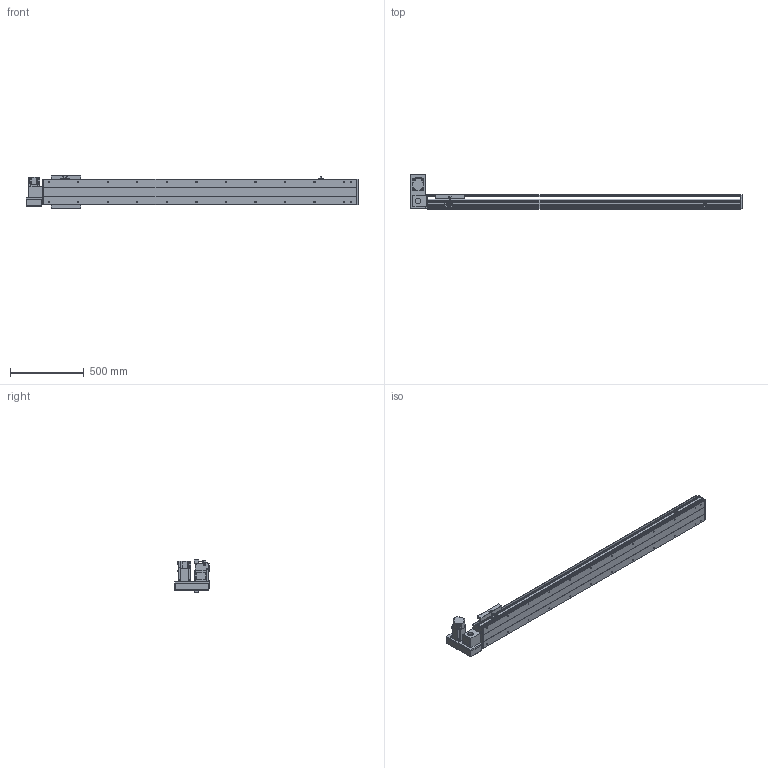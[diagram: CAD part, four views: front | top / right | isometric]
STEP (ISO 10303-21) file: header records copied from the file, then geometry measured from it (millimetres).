
FILE_DESCRIPTION(/* description */ ('STEP AP214'),/* implementation_level */ '2;1');
FILE_NAME(/* name */ 'PBS200-P40-S1750-LU-T75-C1-N(0)',/* time_stamp */ '2022-06-11T09:01:14+02:00',/* author */ ('License CC BY-ND 4.0'),/* organization */ ('CADENAS'),/* preprocessor_version */ 'ST-DEVELOPER v18.102',/* originating_system */ 'PARTsolutions',/* authorisation */ ' ');
FILE_SCHEMA (('AUTOMOTIVE_DESIGN {1 0 10303 214 3 1 1}'));
Length unit declared in the file: millimetre
Products named in the file (7): PBS200-P40-S1750-LU-T75-C1-N(0); PBS200_sensor; PBS200_plant; PBS200_sliser; T75-p1; PBS200T-LU_motors; PBS200-S1750()_body
Assembly tree (8 placements, depth 2):
  PBS200-P40-S1750-LU-T75-C1-N(0)
    PBS200_sensor  x3
    PBS200_plant
    PBS200_sliser
    T75-p1
    PBS200T-LU_motors
    PBS200-S1750()_body
Bounding box: 2250 x 231 x 221 mm (x, y, z)
Volume: 15920200.2 mm3; surface area: 2558183.1 mm2
Topology: 8 solids, 8 shells, 944 faces, 2414 edges, 1572 vertices
Faces by surface type: plane 582, cylinder 306, cone 56
Full cylindrical faces by diameter (mm): 2.459 x6, 3.242 x4, 4.5 x6, 4.917 x4, 5 x6, 6 x7, 6.6 x8, 6.647 x28, 8 x6, 10 x4, 12 x8, 38 x2, 40 x1, 70 x1
Entity records: 25061 total; most frequent: DIRECTION 4423, CARTESIAN_POINT 4264, ORIENTED_EDGE 4030, EDGE_CURVE 2015, AXIS2_PLACEMENT_3D 1555, VERTEX_POINT 1396, LINE 1313, VECTOR 1313
